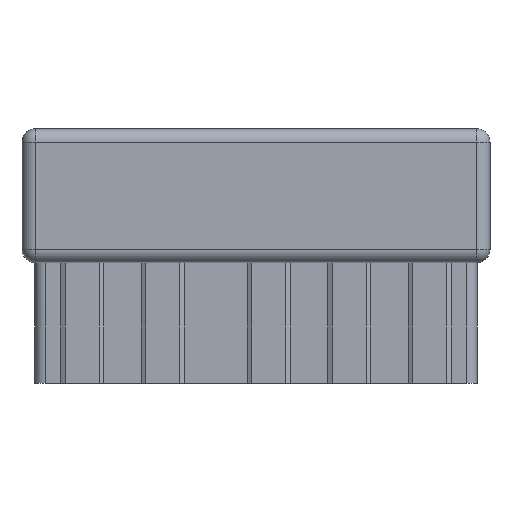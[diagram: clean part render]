
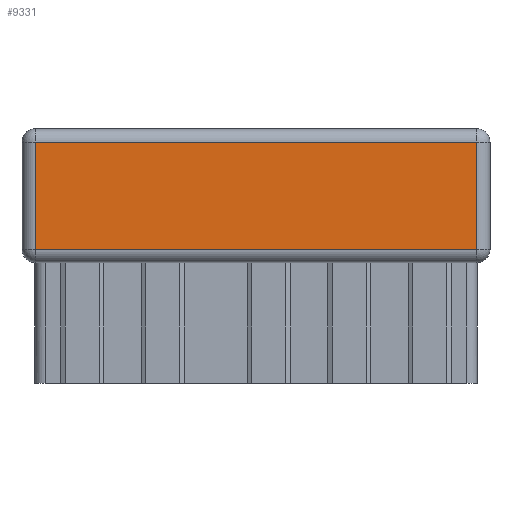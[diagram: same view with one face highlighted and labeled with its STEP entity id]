
A CAD part, front view. The second image highlights one B-rep face of the part: STEP entity #9331.
In plain terms, the highlighted planar face has unit normal (0, -1, 0).
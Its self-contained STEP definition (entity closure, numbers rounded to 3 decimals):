
#1923=DIRECTION('',(1.,0.,0.));
#1924=VECTOR('',#1923,49.4);
#1925=CARTESIAN_POINT('',(-26.15,-7.85,-1.5));
#1926=LINE('',#1925,#1924);
#1927=DIRECTION('',(-1.,0.,0.));
#1928=VECTOR('',#1927,49.4);
#1929=CARTESIAN_POINT('',(23.25,-7.85,-13.5));
#1930=LINE('',#1929,#1928);
#1931=DIRECTION('',(0.,0.,-1.));
#1932=VECTOR('',#1931,12.);
#1933=CARTESIAN_POINT('',(-26.15,-7.85,-1.5));
#1934=LINE('',#1933,#1932);
#1955=DIRECTION('',(0.,0.,-1.));
#1956=VECTOR('',#1955,12.);
#1957=CARTESIAN_POINT('',(23.25,-7.85,-1.5));
#1958=LINE('',#1957,#1956);
#6916=CARTESIAN_POINT('',(-26.15,-7.85,-1.5));
#6917=VERTEX_POINT('',#6916);
#6920=CARTESIAN_POINT('',(23.25,-7.85,-1.5));
#6921=VERTEX_POINT('',#6920);
#6958=CARTESIAN_POINT('',(-26.15,-7.85,-13.5));
#6960=VERTEX_POINT('',#6958);
#6986=CARTESIAN_POINT('',(23.25,-7.85,-13.5));
#6987=VERTEX_POINT('',#6986);
#9318=CARTESIAN_POINT('',(-26.15,-7.85,0.));
#9319=DIRECTION('',(0.,-1.,0.));
#9320=DIRECTION('',(1.,0.,0.));
#9321=AXIS2_PLACEMENT_3D('',#9318,#9319,#9320);
#9322=PLANE('',#9321);
#9324=ORIENTED_EDGE('',*,*,#9323,.T.);
#9326=ORIENTED_EDGE('',*,*,#9325,.T.);
#9327=ORIENTED_EDGE('',*,*,#7383,.T.);
#9328=ORIENTED_EDGE('',*,*,#9309,.F.);
#9329=EDGE_LOOP('',(#9324,#9326,#9327,#9328));
#9330=FACE_OUTER_BOUND('',#9329,.F.);
#9331=ADVANCED_FACE('',(#9330),#9322,.T.);
#7383=EDGE_CURVE('',#6987,#6960,#1930,.T.);
#9309=EDGE_CURVE('',#6917,#6960,#1934,.T.);
#9323=EDGE_CURVE('',#6917,#6921,#1926,.T.);
#9325=EDGE_CURVE('',#6921,#6987,#1958,.T.);
